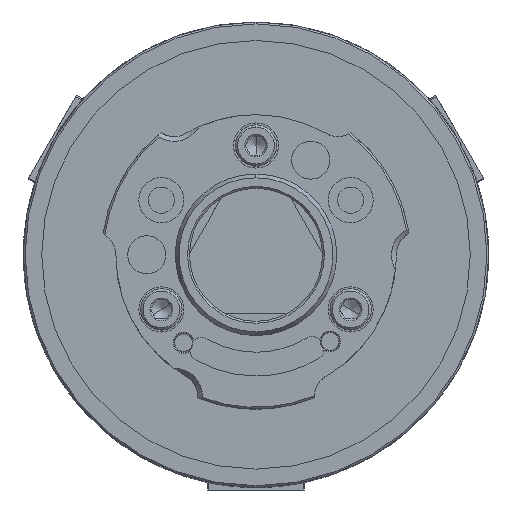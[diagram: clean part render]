
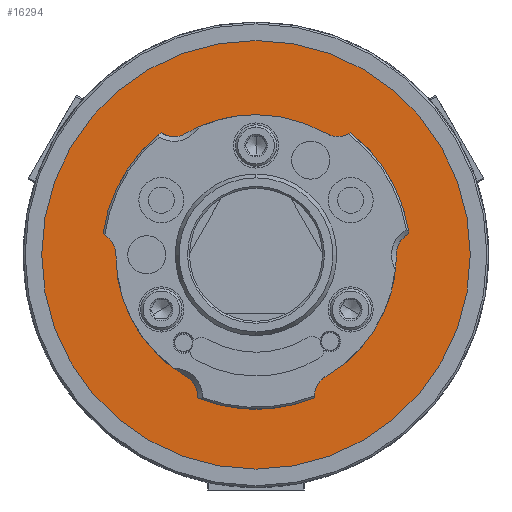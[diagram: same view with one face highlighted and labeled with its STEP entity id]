
A CAD part, front view. The second image highlights one B-rep face of the part: STEP entity #16294.
In plain terms, the highlighted planar face has unit normal (0, -1, 0).
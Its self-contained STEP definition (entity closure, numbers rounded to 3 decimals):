
#708 = VERTEX_POINT ( 'NONE', #31667 ) ;
#2091 = ORIENTED_EDGE ( 'NONE', *, *, #47273, .T. ) ;
#2375 = DIRECTION ( 'NONE',  ( 0., 0., 1. ) ) ;
#2490 = VERTEX_POINT ( 'NONE', #31265 ) ;
#2649 = DIRECTION ( 'NONE',  ( 0., 1., 0. ) ) ;
#3527 = DIRECTION ( 'NONE',  ( 0., 1., 0. ) ) ;
#4198 = CARTESIAN_POINT ( 'NONE',  ( 0., -22.5, 29.5 ) ) ;
#6420 = ORIENTED_EDGE ( 'NONE', *, *, #31900, .F. ) ;
#7767 = ORIENTED_EDGE ( 'NONE', *, *, #25959, .F. ) ;
#9159 = EDGE_LOOP ( 'NONE', ( #36148, #2091 ) ) ;
#9460 = DIRECTION ( 'NONE',  ( 0., 0., 1. ) ) ;
#9533 = AXIS2_PLACEMENT_3D ( 'NONE', #28848, #11575, #23657 ) ;
#10025 = DIRECTION ( 'NONE',  ( 0., 0., 1. ) ) ;
#11575 = DIRECTION ( 'NONE',  ( 0., 1., 0. ) ) ;
#12431 = FACE_OUTER_BOUND ( 'NONE', #20210, .T. ) ;
#13160 = CARTESIAN_POINT ( 'NONE',  ( 0., -22.5, -45.1 ) ) ;
#14281 = VERTEX_POINT ( 'NONE', #18981 ) ;
#15932 = CIRCLE ( 'NONE', #23828, 29.5 ) ;
#16294 = ADVANCED_FACE ( 'NONE', ( #45062, #12431 ), #37388, .T. ) ;
#18981 = CARTESIAN_POINT ( 'NONE',  ( 0., -22.5, -29.5 ) ) ;
#20210 = EDGE_LOOP ( 'NONE', ( #6420, #7767 ) ) ;
#22119 = CARTESIAN_POINT ( 'NONE',  ( 0., -22.5, 0. ) ) ;
#23657 = DIRECTION ( 'NONE',  ( 0., 0., 1. ) ) ;
#23828 = AXIS2_PLACEMENT_3D ( 'NONE', #27048, #2649, #2375 ) ;
#24268 = AXIS2_PLACEMENT_3D ( 'NONE', #49863, #3527, #9460 ) ;
#25116 = CIRCLE ( 'NONE', #24268, 29.5 ) ;
#25959 = EDGE_CURVE ( 'NONE', #51197, #708, #49715, .T. ) ;
#26166 = CIRCLE ( 'NONE', #9533, 45.1 ) ;
#27048 = CARTESIAN_POINT ( 'NONE',  ( 0., -22.5, 0. ) ) ;
#28593 = EDGE_CURVE ( 'NONE', #2490, #14281, #15932, .T. ) ;
#28848 = CARTESIAN_POINT ( 'NONE',  ( 0., -22.5, 0. ) ) ;
#31135 = DIRECTION ( 'NONE',  ( 0., 1., 0. ) ) ;
#31265 = CARTESIAN_POINT ( 'NONE',  ( 0., -22.5, 29.5 ) ) ;
#31667 = CARTESIAN_POINT ( 'NONE',  ( 0., -22.5, 45.1 ) ) ;
#31900 = EDGE_CURVE ( 'NONE', #708, #51197, #26166, .T. ) ;
#36148 = ORIENTED_EDGE ( 'NONE', *, *, #28593, .T. ) ;
#36852 = DIRECTION ( 'NONE',  ( 0., 0., -1. ) ) ;
#37388 = PLANE ( 'NONE',  #40188 ) ;
#40188 = AXIS2_PLACEMENT_3D ( 'NONE', #4198, #41740, #36852 ) ;
#41740 = DIRECTION ( 'NONE',  ( 0., -1., 0. ) ) ;
#45062 = FACE_BOUND ( 'NONE', #9159, .T. ) ;
#47273 = EDGE_CURVE ( 'NONE', #14281, #2490, #25116, .T. ) ;
#49715 = CIRCLE ( 'NONE', #50689, 45.1 ) ;
#49863 = CARTESIAN_POINT ( 'NONE',  ( 0., -22.5, 0. ) ) ;
#50689 = AXIS2_PLACEMENT_3D ( 'NONE', #22119, #31135, #10025 ) ;
#51197 = VERTEX_POINT ( 'NONE', #13160 ) ;
